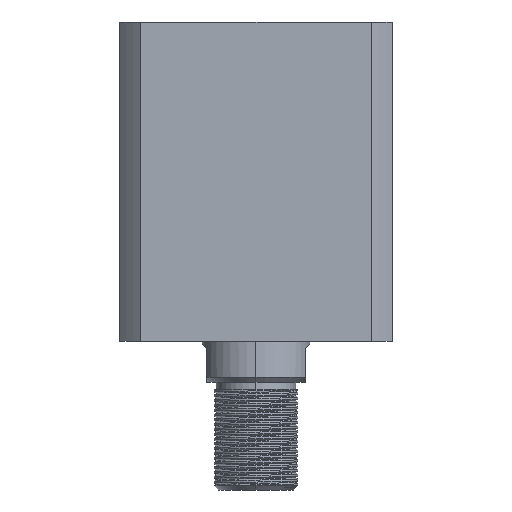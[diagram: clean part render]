
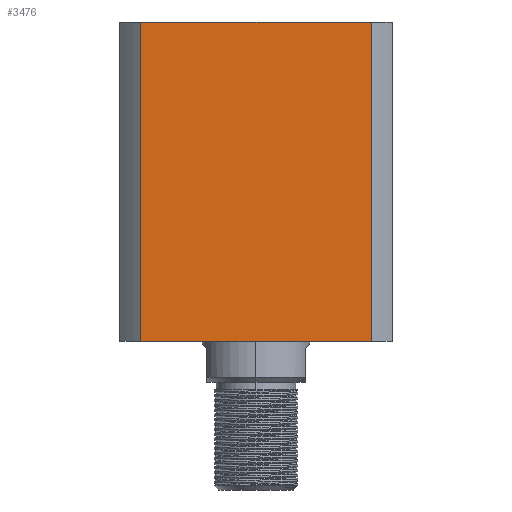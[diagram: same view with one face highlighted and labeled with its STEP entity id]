
A CAD part, front view. The second image highlights one B-rep face of the part: STEP entity #3476.
In plain terms, the highlighted planar face has unit normal (0, -1, 0) as drawn and (-1, 0, 0) by its records, which use the part's own axes.
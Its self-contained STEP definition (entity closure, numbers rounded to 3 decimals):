
#522 = VERTEX_POINT ( 'NONE', #14737 ) ;
#1159 = ORIENTED_EDGE ( 'NONE', *, *, #6885, .F. ) ;
#1833 = LINE ( 'NONE', #13237, #17682 ) ;
#1891 = AXIS2_PLACEMENT_3D ( 'NONE', #15404, #4529, #15255 ) ;
#2610 = VERTEX_POINT ( 'NONE', #9781 ) ;
#2878 = FACE_OUTER_BOUND ( 'NONE', #19798, .T. ) ;
#2932 = LINE ( 'NONE', #5433, #18739 ) ;
#2948 = PLANE ( 'NONE',  #1891 ) ;
#3476 = ADVANCED_FACE ( 'NONE', ( #2878 ), #2948, .F. ) ;
#4529 = DIRECTION ( 'NONE',  ( 1., 0., 0. ) ) ;
#5278 = ORIENTED_EDGE ( 'NONE', *, *, #13829, .T. ) ;
#5433 = CARTESIAN_POINT ( 'NONE',  ( -57., -47.971, -167. ) ) ;
#5544 = CARTESIAN_POINT ( 'NONE',  ( -57., -47.971, 133. ) ) ;
#5834 = EDGE_CURVE ( 'NONE', #522, #7967, #17230, .T. ) ;
#5925 = ORIENTED_EDGE ( 'NONE', *, *, #18061, .F. ) ;
#6083 = CARTESIAN_POINT ( 'NONE',  ( -57., 47.971, 0. ) ) ;
#6885 = EDGE_CURVE ( 'NONE', #7967, #2610, #2932, .T. ) ;
#7105 = VECTOR ( 'NONE', #7292, 1000. ) ;
#7292 = DIRECTION ( 'NONE',  ( 0., -1., 0. ) ) ;
#7503 = DIRECTION ( 'NONE',  ( 0., -1., 0. ) ) ;
#7967 = VERTEX_POINT ( 'NONE', #5544 ) ;
#8177 = VECTOR ( 'NONE', #7503, 1000. ) ;
#9781 = CARTESIAN_POINT ( 'NONE',  ( -57., -47.971, 0. ) ) ;
#10633 = ORIENTED_EDGE ( 'NONE', *, *, #5834, .F. ) ;
#11205 = LINE ( 'NONE', #11813, #7105 ) ;
#11813 = CARTESIAN_POINT ( 'NONE',  ( -57., 57., 0. ) ) ;
#12140 = CARTESIAN_POINT ( 'NONE',  ( -57., 57., 133. ) ) ;
#13237 = CARTESIAN_POINT ( 'NONE',  ( -57., 47.971, -167. ) ) ;
#13829 = EDGE_CURVE ( 'NONE', #16948, #2610, #11205, .T. ) ;
#14737 = CARTESIAN_POINT ( 'NONE',  ( -57., 47.971, 133. ) ) ;
#14762 = DIRECTION ( 'NONE',  ( 0., 0., 1. ) ) ;
#15255 = DIRECTION ( 'NONE',  ( 0., 1., 0. ) ) ;
#15404 = CARTESIAN_POINT ( 'NONE',  ( -57., 57., 133. ) ) ;
#16948 = VERTEX_POINT ( 'NONE', #6083 ) ;
#17230 = LINE ( 'NONE', #12140, #8177 ) ;
#17648 = DIRECTION ( 'NONE',  ( 0., 0., -1. ) ) ;
#17682 = VECTOR ( 'NONE', #14762, 1000. ) ;
#18061 = EDGE_CURVE ( 'NONE', #16948, #522, #1833, .T. ) ;
#18739 = VECTOR ( 'NONE', #17648, 1000. ) ;
#19798 = EDGE_LOOP ( 'NONE', ( #5925, #5278, #1159, #10633 ) ) ;
